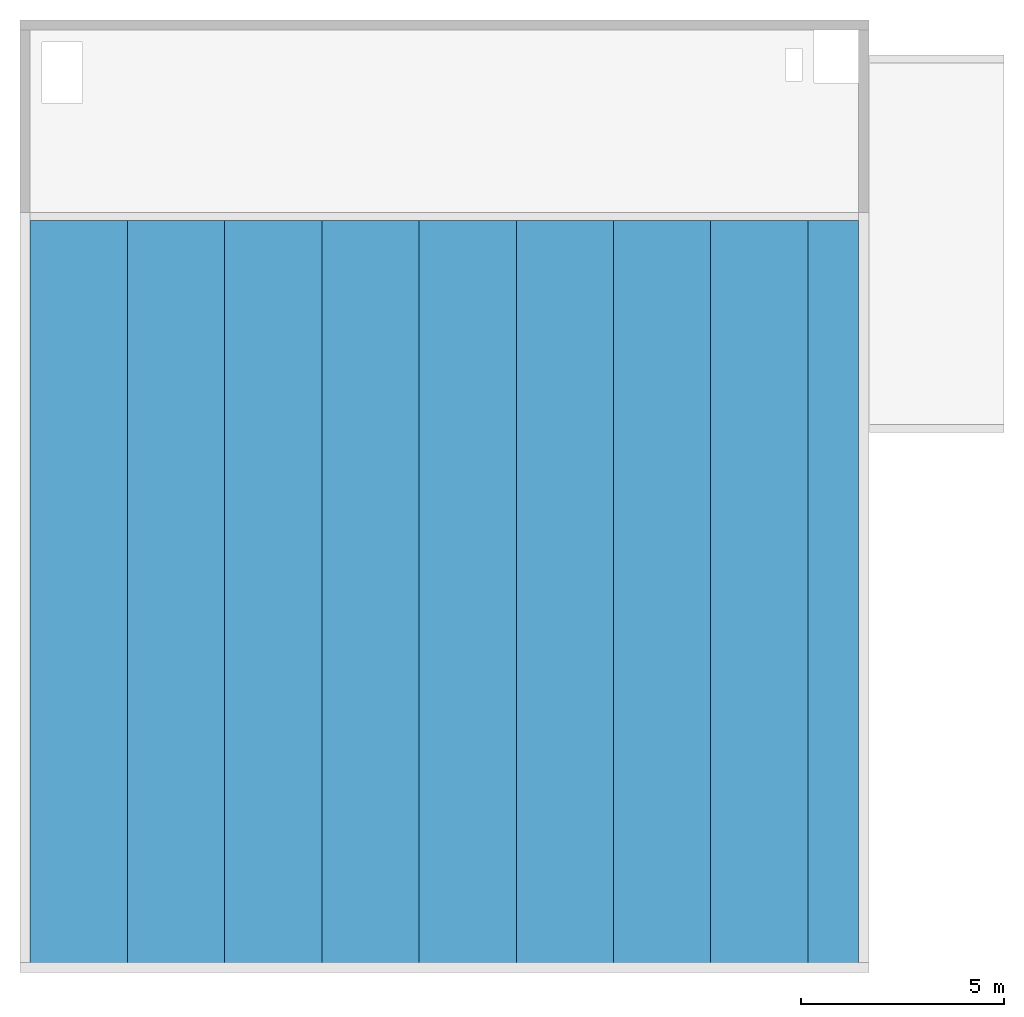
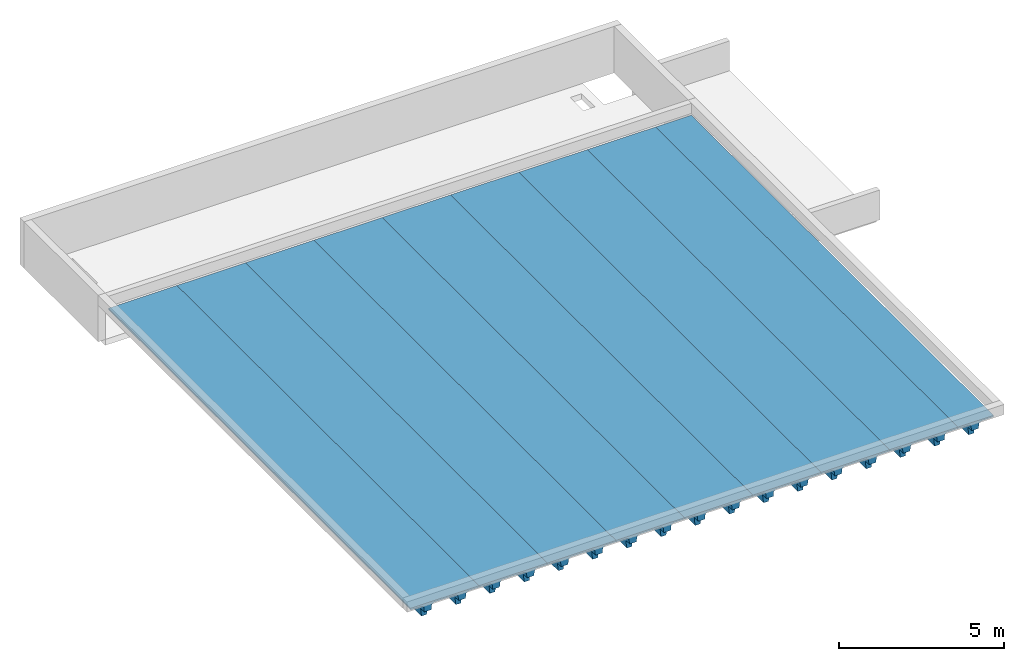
# One storey, part 2 of 2: 9 beams.
"""IFC4 building model written with IfcOpenShell, lengths in metres."""

from ifc_helpers import new_model, entity, si_unit, converted_unit, derived_unit, frame, origin, place, context, subcontext, project, spatial, faceted_brep, material, element, save


model = new_model("IFC4")

# Units and contexts
model_context = context("Model", 3, precision=1e-05, world=origin())
plan_context = context("Plan", 2, precision=1e-05, world=origin())
body_context = subcontext(model_context, "Body", "Model", "MODEL_VIEW")
ifc_project = project(units=[si_unit("LENGTHUNIT", "METRE"), si_unit("AREAUNIT", "SQUARE_METRE"), si_unit("VOLUMEUNIT", "CUBIC_METRE"), si_unit("MASSUNIT", "GRAM", prefix="KILO"), converted_unit("PLANEANGLEUNIT", "DEGREE", entity("IfcPlaneAngleMeasure", 0.0174532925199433), si_unit("PLANEANGLEUNIT", "RADIAN"), dimensions=[0, 0, 0, 0, 0, 0, 0]), derived_unit("THERMALTRANSMITTANCEUNIT", [(si_unit("POWERUNIT", "WATT"), 1), (si_unit("THERMODYNAMICTEMPERATUREUNIT", "KELVIN"), -1), (si_unit("LENGTHUNIT", "METRE"), -2)]), derived_unit("VOLUMETRICFLOWRATEUNIT", [(si_unit("LENGTHUNIT", "METRE"), 3), (converted_unit("TIMEUNIT", "hour", entity("IfcTimeMeasure", 3600.0), si_unit("TIMEUNIT", "SECOND"), dimensions=[0, 0, 1, 0, 0, 0, 0]), -1), (si_unit("LENGTHUNIT", "METRE"), -1)])], contexts=[model_context, plan_context])

# Site, building, storey
site_placement = place(None, origin())
site = spatial("IfcSite", under=ifc_project, at=site_placement, Name="Site", CompositionType="ELEMENT")
building_placement = place(site_placement, origin())
building = spatial("IfcBuilding", under=site, at=building_placement, Name="Auditorium", CompositionType="ELEMENT")
storey_placement = place(building_placement, frame((0.0, 0.0, 3.9)))
storey = spatial("IfcBuildingStorey", under=building, at=storey_placement, Name="01-Toiture", CompositionType="ELEMENT", Elevation=3.9)

# Beams
ifc_material_1 = material(Name="Béton préfabriqué")
beam_1_placement = place(storey_placement, frame((-0.000199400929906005, -0.0505506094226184, 0.36)))
element("IfcBeam", 1, at=beam_1_placement, inside=storey, material=ifc_material_1, Name="Dalles TT", PredefinedType="NOTDEFINED", context=body_context, shape_type="Brep", body=[
    faceted_brep([(0.687, 0.225, 0.0), (0.507, 0.225, 0.0), (0.4757531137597, 0.225, 0.3), (0.7182468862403, 0.225, 0.3), (0.4757531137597, 0.0, 0.3), (0.7182468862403, 0.0, 0.3), (0.0, 0.0, 0.6), (1.27220118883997e-10, 18.320101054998, 0.6), (2.39400000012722, 18.320101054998, 0.6), (2.394, 0.0, 0.6), (2.39400000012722, 18.320101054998, 0.54), (2.394, 0.0, 0.54), (2.00100000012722, 18.320101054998, 0.54), (2.001, 0.0, 0.54), (1.9370088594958, 18.320101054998, 0.480132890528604), (1.93700885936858, 0.0, 0.480132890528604), (1.91824688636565, 18.120101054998, 0.3), (1.88700000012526, 18.120101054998, 0.0), (1.887, 0.225, 0.0), (1.9182468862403, 0.225, 0.3), (1.9182468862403, 0.0, 0.3), (1.91824688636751, 18.320101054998, 0.299999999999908), (1.67575311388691, 18.320101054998, 0.300000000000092), (1.65699114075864, 18.320101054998, 0.480132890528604), (1.65699114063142, 0.0, 0.480132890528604), (1.6757531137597, 0.0, 0.3), (1.6757531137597, 0.225, 0.3), (1.707, 0.225, 0.0), (1.70700000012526, 18.120101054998, 0.0), (1.67575311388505, 18.120101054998, 0.3), (1.59300000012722, 18.320101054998, 0.54), (1.593, 0.0, 0.54), (0.80100000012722, 18.320101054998, 0.54), (0.801, 0.0, 0.54), (0.7370088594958, 18.320101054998, 0.480132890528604), (0.73700885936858, 0.0, 0.480132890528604), (0.718246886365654, 18.120101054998, 0.3), (0.687000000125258, 18.120101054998, 0.0), (0.718246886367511, 18.320101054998, 0.299999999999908), (0.475753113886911, 18.320101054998, 0.300000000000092), (0.456991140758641, 18.320101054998, 0.480132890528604), (0.45699114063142, 0.0, 0.480132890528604), (0.507000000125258, 18.120101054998, 0.0), (0.475753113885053, 18.120101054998, 0.3), (0.39300000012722, 18.320101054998, 0.54), (0.393, 0.0, 0.54), (1.27220118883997e-10, 18.320101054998, 0.54), (0.0, 0.0, 0.54)], [[[0, 1, 2, 3]], [[3, 2, 4, 5]], [[6, 7, 8, 9]], [[9, 8, 10, 11]], [[11, 10, 12, 13]], [[13, 12, 14, 15]], [[16, 17, 18, 19, 20, 15, 14, 21]], [[22, 23, 24, 25, 26, 27, 28, 29]], [[24, 23, 30, 31]], [[31, 30, 32, 33]], [[33, 32, 34, 35]], [[36, 37, 0, 3, 5, 35, 34, 38]], [[39, 40, 41, 4, 2, 1, 42, 43]], [[41, 40, 44, 45]], [[45, 44, 46, 47]], [[47, 46, 7, 6]], [[4, 41, 45, 47, 6, 9, 11, 13, 15, 20, 25, 24, 31, 33, 35, 5]], [[38, 34, 32, 30, 23, 22, 21, 14, 12, 10, 8, 7, 46, 44, 40, 39]], [[25, 20, 19, 26]], [[26, 19, 18, 27]], [[1, 0, 37, 42]], [[27, 18, 17, 28]], [[29, 16, 21, 22]], [[28, 17, 16, 29]], [[42, 37, 36, 43]], [[43, 36, 38, 39]]], orient=[[False], [False], [False], [False], [False], [False], [False], [False], [False], [False], [False], [False], [False], [False], [False], [False], [False], [False], [False], [False], [False], [False], [False], [False], [False], [False]]),
])
ifc_material_2 = material(Name="Béton préfabriqué")
beam_2_placement = place(storey_placement, frame((2.39380059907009, -0.0505506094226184, 0.36)))
element("IfcBeam", 2, at=beam_2_placement, inside=storey, material=ifc_material_2, Name="Dalles TT", PredefinedType="NOTDEFINED", context=body_context, shape_type="Brep", body=[
    faceted_brep([(0.687, 0.225, 0.0), (0.507, 0.225, 0.0), (0.4757531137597, 0.225, 0.3), (0.7182468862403, 0.225, 0.3), (0.4757531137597, 0.0, 0.3), (0.7182468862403, 0.0, 0.3), (0.0, 0.0, 0.6), (1.27220118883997e-10, 18.320101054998, 0.6), (2.39400000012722, 18.320101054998, 0.6), (2.394, 0.0, 0.6), (2.39400000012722, 18.320101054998, 0.54), (2.394, 0.0, 0.54), (2.00100000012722, 18.320101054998, 0.54), (2.001, 0.0, 0.54), (1.9370088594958, 18.320101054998, 0.480132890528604), (1.93700885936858, 0.0, 0.480132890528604), (1.91824688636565, 18.120101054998, 0.3), (1.88700000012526, 18.120101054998, 0.0), (1.887, 0.225, 0.0), (1.9182468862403, 0.225, 0.3), (1.9182468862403, 0.0, 0.3), (1.91824688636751, 18.320101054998, 0.299999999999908), (1.67575311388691, 18.320101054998, 0.300000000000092), (1.65699114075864, 18.320101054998, 0.480132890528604), (1.65699114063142, 0.0, 0.480132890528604), (1.6757531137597, 0.0, 0.3), (1.6757531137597, 0.225, 0.3), (1.707, 0.225, 0.0), (1.70700000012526, 18.120101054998, 0.0), (1.67575311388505, 18.120101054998, 0.3), (1.59300000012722, 18.320101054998, 0.54), (1.593, 0.0, 0.54), (0.80100000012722, 18.320101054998, 0.54), (0.801, 0.0, 0.54), (0.7370088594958, 18.320101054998, 0.480132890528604), (0.73700885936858, 0.0, 0.480132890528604), (0.718246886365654, 18.120101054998, 0.3), (0.687000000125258, 18.120101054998, 0.0), (0.718246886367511, 18.320101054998, 0.299999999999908), (0.475753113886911, 18.320101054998, 0.300000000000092), (0.456991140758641, 18.320101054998, 0.480132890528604), (0.45699114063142, 0.0, 0.480132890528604), (0.507000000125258, 18.120101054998, 0.0), (0.475753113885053, 18.120101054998, 0.3), (0.39300000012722, 18.320101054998, 0.54), (0.393, 0.0, 0.54), (1.27220118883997e-10, 18.320101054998, 0.54), (0.0, 0.0, 0.54)], [[[0, 1, 2, 3]], [[3, 2, 4, 5]], [[6, 7, 8, 9]], [[9, 8, 10, 11]], [[11, 10, 12, 13]], [[13, 12, 14, 15]], [[16, 17, 18, 19, 20, 15, 14, 21]], [[22, 23, 24, 25, 26, 27, 28, 29]], [[24, 23, 30, 31]], [[31, 30, 32, 33]], [[33, 32, 34, 35]], [[36, 37, 0, 3, 5, 35, 34, 38]], [[39, 40, 41, 4, 2, 1, 42, 43]], [[41, 40, 44, 45]], [[45, 44, 46, 47]], [[47, 46, 7, 6]], [[4, 41, 45, 47, 6, 9, 11, 13, 15, 20, 25, 24, 31, 33, 35, 5]], [[38, 34, 32, 30, 23, 22, 21, 14, 12, 10, 8, 7, 46, 44, 40, 39]], [[25, 20, 19, 26]], [[26, 19, 18, 27]], [[1, 0, 37, 42]], [[27, 18, 17, 28]], [[29, 16, 21, 22]], [[28, 17, 16, 29]], [[42, 37, 36, 43]], [[43, 36, 38, 39]]], orient=[[False], [False], [False], [False], [False], [False], [False], [False], [False], [False], [False], [False], [False], [False], [False], [False], [False], [False], [False], [False], [False], [False], [False], [False], [False], [False]]),
])
ifc_material_3 = material(Name="Béton préfabriqué")
beam_3_placement = place(storey_placement, frame((4.78780059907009, -0.0505506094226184, 0.36)))
element("IfcBeam", 3, at=beam_3_placement, inside=storey, material=ifc_material_3, Name="Dalles TT", PredefinedType="NOTDEFINED", context=body_context, shape_type="Brep", body=[
    faceted_brep([(0.687, 0.225, 0.0), (0.507, 0.225, 0.0), (0.4757531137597, 0.225, 0.3), (0.7182468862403, 0.225, 0.3), (0.4757531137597, 0.0, 0.3), (0.7182468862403, 0.0, 0.3), (0.0, 0.0, 0.6), (1.27220118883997e-10, 18.320101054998, 0.6), (2.39400000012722, 18.320101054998, 0.6), (2.394, 0.0, 0.6), (2.39400000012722, 18.320101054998, 0.54), (2.394, 0.0, 0.54), (2.00100000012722, 18.320101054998, 0.54), (2.001, 0.0, 0.54), (1.9370088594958, 18.320101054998, 0.480132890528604), (1.93700885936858, 0.0, 0.480132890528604), (1.91824688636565, 18.120101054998, 0.3), (1.88700000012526, 18.120101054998, 0.0), (1.887, 0.225, 0.0), (1.9182468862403, 0.225, 0.3), (1.9182468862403, 0.0, 0.3), (1.91824688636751, 18.320101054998, 0.299999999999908), (1.67575311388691, 18.320101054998, 0.300000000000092), (1.65699114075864, 18.320101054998, 0.480132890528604), (1.65699114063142, 0.0, 0.480132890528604), (1.6757531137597, 0.0, 0.3), (1.6757531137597, 0.225, 0.3), (1.707, 0.225, 0.0), (1.70700000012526, 18.120101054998, 0.0), (1.67575311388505, 18.120101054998, 0.3), (1.59300000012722, 18.320101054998, 0.54), (1.593, 0.0, 0.54), (0.80100000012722, 18.320101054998, 0.54), (0.801, 0.0, 0.54), (0.7370088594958, 18.320101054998, 0.480132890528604), (0.73700885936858, 0.0, 0.480132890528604), (0.718246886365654, 18.120101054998, 0.3), (0.687000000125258, 18.120101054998, 0.0), (0.718246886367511, 18.320101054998, 0.299999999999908), (0.475753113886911, 18.320101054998, 0.300000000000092), (0.456991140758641, 18.320101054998, 0.480132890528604), (0.45699114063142, 0.0, 0.480132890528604), (0.507000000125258, 18.120101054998, 0.0), (0.475753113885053, 18.120101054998, 0.3), (0.39300000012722, 18.320101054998, 0.54), (0.393, 0.0, 0.54), (1.27220118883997e-10, 18.320101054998, 0.54), (0.0, 0.0, 0.54)], [[[0, 1, 2, 3]], [[3, 2, 4, 5]], [[6, 7, 8, 9]], [[9, 8, 10, 11]], [[11, 10, 12, 13]], [[13, 12, 14, 15]], [[16, 17, 18, 19, 20, 15, 14, 21]], [[22, 23, 24, 25, 26, 27, 28, 29]], [[24, 23, 30, 31]], [[31, 30, 32, 33]], [[33, 32, 34, 35]], [[36, 37, 0, 3, 5, 35, 34, 38]], [[39, 40, 41, 4, 2, 1, 42, 43]], [[41, 40, 44, 45]], [[45, 44, 46, 47]], [[47, 46, 7, 6]], [[4, 41, 45, 47, 6, 9, 11, 13, 15, 20, 25, 24, 31, 33, 35, 5]], [[38, 34, 32, 30, 23, 22, 21, 14, 12, 10, 8, 7, 46, 44, 40, 39]], [[25, 20, 19, 26]], [[26, 19, 18, 27]], [[1, 0, 37, 42]], [[27, 18, 17, 28]], [[29, 16, 21, 22]], [[28, 17, 16, 29]], [[42, 37, 36, 43]], [[43, 36, 38, 39]]], orient=[[False], [False], [False], [False], [False], [False], [False], [False], [False], [False], [False], [False], [False], [False], [False], [False], [False], [False], [False], [False], [False], [False], [False], [False], [False], [False]]),
])
ifc_material_4 = material(Name="Béton préfabriqué")
beam_4_placement = place(storey_placement, frame((11.9698005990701, -0.0505506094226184, 0.36)))
element("IfcBeam", 4, at=beam_4_placement, inside=storey, material=ifc_material_4, Name="Dalles TT", PredefinedType="NOTDEFINED", context=body_context, shape_type="Brep", body=[
    faceted_brep([(0.687, 0.225, 0.0), (0.507, 0.225, 0.0), (0.4757531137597, 0.225, 0.3), (0.7182468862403, 0.225, 0.3), (0.4757531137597, 0.0, 0.3), (0.7182468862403, 0.0, 0.3), (0.0, 0.0, 0.6), (1.27220118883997e-10, 18.320101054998, 0.6), (2.39400000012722, 18.320101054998, 0.6), (2.394, 0.0, 0.6), (2.39400000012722, 18.320101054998, 0.54), (2.394, 0.0, 0.54), (2.00100000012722, 18.320101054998, 0.54), (2.001, 0.0, 0.54), (1.9370088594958, 18.320101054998, 0.480132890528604), (1.93700885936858, 0.0, 0.480132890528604), (1.91824688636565, 18.120101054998, 0.3), (1.88700000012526, 18.120101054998, 0.0), (1.887, 0.225, 0.0), (1.9182468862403, 0.225, 0.3), (1.9182468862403, 0.0, 0.3), (1.91824688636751, 18.320101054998, 0.299999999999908), (1.67575311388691, 18.320101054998, 0.300000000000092), (1.65699114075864, 18.320101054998, 0.480132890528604), (1.65699114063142, 0.0, 0.480132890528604), (1.6757531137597, 0.0, 0.3), (1.6757531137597, 0.225, 0.3), (1.707, 0.225, 0.0), (1.70700000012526, 18.120101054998, 0.0), (1.67575311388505, 18.120101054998, 0.3), (1.59300000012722, 18.320101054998, 0.54), (1.593, 0.0, 0.54), (0.80100000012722, 18.320101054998, 0.54), (0.801, 0.0, 0.54), (0.7370088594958, 18.320101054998, 0.480132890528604), (0.73700885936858, 0.0, 0.480132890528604), (0.718246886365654, 18.120101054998, 0.3), (0.687000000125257, 18.120101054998, 0.0), (0.718246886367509, 18.320101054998, 0.299999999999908), (0.475753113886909, 18.320101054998, 0.300000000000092), (0.456991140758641, 18.320101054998, 0.480132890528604), (0.45699114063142, 0.0, 0.480132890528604), (0.507000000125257, 18.120101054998, 0.0), (0.475753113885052, 18.120101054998, 0.3), (0.39300000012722, 18.320101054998, 0.54), (0.393, 0.0, 0.54), (1.27220118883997e-10, 18.320101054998, 0.54), (0.0, 0.0, 0.54)], [[[0, 1, 2, 3]], [[3, 2, 4, 5]], [[6, 7, 8, 9]], [[9, 8, 10, 11]], [[11, 10, 12, 13]], [[13, 12, 14, 15]], [[16, 17, 18, 19, 20, 15, 14, 21]], [[22, 23, 24, 25, 26, 27, 28, 29]], [[24, 23, 30, 31]], [[31, 30, 32, 33]], [[33, 32, 34, 35]], [[36, 37, 0, 3, 5, 35, 34, 38]], [[39, 40, 41, 4, 2, 1, 42, 43]], [[41, 40, 44, 45]], [[45, 44, 46, 47]], [[47, 46, 7, 6]], [[4, 41, 45, 47, 6, 9, 11, 13, 15, 20, 25, 24, 31, 33, 35, 5]], [[38, 34, 32, 30, 23, 22, 21, 14, 12, 10, 8, 7, 46, 44, 40, 39]], [[25, 20, 19, 26]], [[26, 19, 18, 27]], [[1, 0, 37, 42]], [[27, 18, 17, 28]], [[29, 16, 21, 22]], [[28, 17, 16, 29]], [[42, 37, 36, 43]], [[43, 36, 38, 39]]], orient=[[False], [False], [False], [False], [False], [False], [False], [False], [False], [False], [False], [False], [False], [False], [False], [False], [False], [False], [False], [False], [False], [False], [False], [False], [False], [False]]),
])
ifc_material_5 = material(Name="Béton préfabriqué")
beam_5_placement = place(storey_placement, frame((14.3638005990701, -0.0505506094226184, 0.36)))
element("IfcBeam", 5, at=beam_5_placement, inside=storey, material=ifc_material_5, Name="Dalles TT", PredefinedType="NOTDEFINED", context=body_context, shape_type="Brep", body=[
    faceted_brep([(0.687, 0.225, 0.0), (0.507, 0.225, 0.0), (0.4757531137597, 0.225, 0.3), (0.7182468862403, 0.225, 0.3), (0.4757531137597, 0.0, 0.3), (0.7182468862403, 0.0, 0.3), (0.0, 0.0, 0.6), (1.27220118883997e-10, 18.320101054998, 0.6), (2.39400000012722, 18.320101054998, 0.6), (2.394, 0.0, 0.6), (2.39400000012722, 18.320101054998, 0.54), (2.394, 0.0, 0.54), (2.00100000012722, 18.320101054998, 0.54), (2.001, 0.0, 0.54), (1.9370088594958, 18.320101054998, 0.480132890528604), (1.93700885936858, 0.0, 0.480132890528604), (1.91824688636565, 18.120101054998, 0.3), (1.88700000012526, 18.120101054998, 0.0), (1.887, 0.225, 0.0), (1.9182468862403, 0.225, 0.3), (1.9182468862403, 0.0, 0.3), (1.91824688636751, 18.320101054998, 0.299999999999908), (1.67575311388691, 18.320101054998, 0.300000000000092), (1.65699114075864, 18.320101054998, 0.480132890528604), (1.65699114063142, 0.0, 0.480132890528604), (1.6757531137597, 0.0, 0.3), (1.6757531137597, 0.225, 0.3), (1.707, 0.225, 0.0), (1.70700000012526, 18.120101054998, 0.0), (1.67575311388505, 18.120101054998, 0.3), (1.59300000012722, 18.320101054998, 0.54), (1.593, 0.0, 0.54), (0.80100000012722, 18.320101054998, 0.54), (0.801, 0.0, 0.54), (0.7370088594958, 18.320101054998, 0.480132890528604), (0.73700885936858, 0.0, 0.480132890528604), (0.718246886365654, 18.120101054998, 0.3), (0.687000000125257, 18.120101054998, 0.0), (0.718246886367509, 18.320101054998, 0.299999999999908), (0.475753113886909, 18.320101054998, 0.300000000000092), (0.456991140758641, 18.320101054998, 0.480132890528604), (0.45699114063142, 0.0, 0.480132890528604), (0.507000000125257, 18.120101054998, 0.0), (0.475753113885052, 18.120101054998, 0.3), (0.39300000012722, 18.320101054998, 0.54), (0.393, 0.0, 0.54), (1.27220118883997e-10, 18.320101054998, 0.54), (0.0, 0.0, 0.54)], [[[0, 1, 2, 3]], [[3, 2, 4, 5]], [[6, 7, 8, 9]], [[9, 8, 10, 11]], [[11, 10, 12, 13]], [[13, 12, 14, 15]], [[16, 17, 18, 19, 20, 15, 14, 21]], [[22, 23, 24, 25, 26, 27, 28, 29]], [[24, 23, 30, 31]], [[31, 30, 32, 33]], [[33, 32, 34, 35]], [[36, 37, 0, 3, 5, 35, 34, 38]], [[39, 40, 41, 4, 2, 1, 42, 43]], [[41, 40, 44, 45]], [[45, 44, 46, 47]], [[47, 46, 7, 6]], [[4, 41, 45, 47, 6, 9, 11, 13, 15, 20, 25, 24, 31, 33, 35, 5]], [[38, 34, 32, 30, 23, 22, 21, 14, 12, 10, 8, 7, 46, 44, 40, 39]], [[25, 20, 19, 26]], [[26, 19, 18, 27]], [[1, 0, 37, 42]], [[27, 18, 17, 28]], [[29, 16, 21, 22]], [[28, 17, 16, 29]], [[42, 37, 36, 43]], [[43, 36, 38, 39]]], orient=[[False], [False], [False], [False], [False], [False], [False], [False], [False], [False], [False], [False], [False], [False], [False], [False], [False], [False], [False], [False], [False], [False], [False], [False], [False], [False]]),
])
ifc_material_6 = material(Name="Béton préfabriqué")
beam_6_placement = place(storey_placement, frame((16.7578005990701, -0.0505506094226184, 0.36)))
element("IfcBeam", 6, at=beam_6_placement, inside=storey, material=ifc_material_6, Name="Dalles TT", PredefinedType="NOTDEFINED", context=body_context, shape_type="Brep", body=[
    faceted_brep([(0.687, 0.225, 0.0), (0.507, 0.225, 0.0), (0.4757531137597, 0.225, 0.3), (0.7182468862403, 0.225, 0.3), (0.4757531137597, 0.0, 0.3), (0.7182468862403, 0.0, 0.3), (0.0, 0.0, 0.6), (1.27220118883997e-10, 18.320101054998, 0.6), (2.39400000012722, 18.320101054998, 0.6), (2.394, 0.0, 0.6), (2.39400000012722, 18.320101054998, 0.54), (2.394, 0.0, 0.54), (2.00100000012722, 18.320101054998, 0.54), (2.001, 0.0, 0.54), (1.9370088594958, 18.320101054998, 0.480132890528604), (1.93700885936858, 0.0, 0.480132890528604), (1.91824688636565, 18.120101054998, 0.3), (1.88700000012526, 18.120101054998, 0.0), (1.887, 0.225, 0.0), (1.9182468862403, 0.225, 0.3), (1.9182468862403, 0.0, 0.3), (1.91824688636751, 18.320101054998, 0.299999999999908), (1.67575311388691, 18.320101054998, 0.300000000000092), (1.65699114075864, 18.320101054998, 0.480132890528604), (1.65699114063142, 0.0, 0.480132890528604), (1.6757531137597, 0.0, 0.3), (1.6757531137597, 0.225, 0.3), (1.707, 0.225, 0.0), (1.70700000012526, 18.120101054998, 0.0), (1.67575311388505, 18.120101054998, 0.3), (1.59300000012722, 18.320101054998, 0.54), (1.593, 0.0, 0.54), (0.80100000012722, 18.320101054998, 0.54), (0.801, 0.0, 0.54), (0.7370088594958, 18.320101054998, 0.480132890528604), (0.73700885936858, 0.0, 0.480132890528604), (0.718246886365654, 18.120101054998, 0.3), (0.687000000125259, 18.120101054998, 0.0), (0.718246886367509, 18.320101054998, 0.299999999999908), (0.475753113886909, 18.320101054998, 0.300000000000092), (0.456991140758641, 18.320101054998, 0.480132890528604), (0.45699114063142, 0.0, 0.480132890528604), (0.507000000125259, 18.120101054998, 0.0), (0.47575311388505, 18.120101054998, 0.3), (0.39300000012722, 18.320101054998, 0.54), (0.393, 0.0, 0.54), (1.27220118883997e-10, 18.320101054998, 0.54), (0.0, 0.0, 0.54)], [[[0, 1, 2, 3]], [[3, 2, 4, 5]], [[6, 7, 8, 9]], [[9, 8, 10, 11]], [[11, 10, 12, 13]], [[13, 12, 14, 15]], [[16, 17, 18, 19, 20, 15, 14, 21]], [[22, 23, 24, 25, 26, 27, 28, 29]], [[24, 23, 30, 31]], [[31, 30, 32, 33]], [[33, 32, 34, 35]], [[36, 37, 0, 3, 5, 35, 34, 38]], [[39, 40, 41, 4, 2, 1, 42, 43]], [[41, 40, 44, 45]], [[45, 44, 46, 47]], [[47, 46, 7, 6]], [[4, 41, 45, 47, 6, 9, 11, 13, 15, 20, 25, 24, 31, 33, 35, 5]], [[38, 34, 32, 30, 23, 22, 21, 14, 12, 10, 8, 7, 46, 44, 40, 39]], [[25, 20, 19, 26]], [[26, 19, 18, 27]], [[1, 0, 37, 42]], [[27, 18, 17, 28]], [[29, 16, 21, 22]], [[28, 17, 16, 29]], [[42, 37, 36, 43]], [[43, 36, 38, 39]]], orient=[[False], [False], [False], [False], [False], [False], [False], [False], [False], [False], [False], [False], [False], [False], [False], [False], [False], [False], [False], [False], [False], [False], [False], [False], [False], [False]]),
])
ifc_material_7 = material(Name="Béton préfabriqué")
beam_7_placement = place(storey_placement, frame((19.1518005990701, -0.0505506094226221, 0.36)))
element("IfcBeam", 7, at=beam_7_placement, inside=storey, material=ifc_material_7, Name="Dalles TT", PredefinedType="NOTDEFINED", context=body_context, shape_type="Brep", body=[
    faceted_brep([(0.510000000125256, 18.120101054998, 0.0), (0.690000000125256, 18.120101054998, 0.0), (0.72124688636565, 18.120101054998, 0.3), (0.478753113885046, 18.120101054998, 0.3), (0.721246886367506, 18.320101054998, 0.299999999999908), (0.478753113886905, 18.320101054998, 0.300000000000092), (0.509999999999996, 0.225000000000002, 0.0), (0.689999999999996, 0.225000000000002, 0.0), (0.478753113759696, 0.225000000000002, 0.3), (0.721246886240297, 0.225000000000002, 0.3), (0.478753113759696, 0.0, 0.3), (0.721246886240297, 0.0, 0.3), (7.27595761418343e-15, 18.320101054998, 0.54), (0.396000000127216, 18.320101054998, 0.54), (0.459991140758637, 18.320101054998, 0.480132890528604), (0.740008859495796, 18.320101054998, 0.480132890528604), (0.804000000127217, 18.320101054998, 0.54), (1.24800000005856, 18.320101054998, 0.54), (1.24800000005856, 18.320101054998, 0.6), (7.27595761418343e-15, 18.320101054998, 0.6), (0.0, 0.0, 0.6), (1.24799999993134, 0.0, 0.6), (1.24799999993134, 0.0, 0.54), (0.803999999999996, 0.0, 0.54), (0.740008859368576, 0.0, 0.480132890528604), (0.459991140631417, 0.0, 0.480132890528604), (0.395999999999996, 0.0, 0.54), (0.0, 0.0, 0.54)], [[[0, 1, 2, 3]], [[3, 2, 4, 5]], [[6, 7, 1, 0]], [[8, 9, 7, 6]], [[10, 11, 9, 8]], [[12, 13, 14, 5, 4, 15, 16, 17, 18, 19]], [[20, 21, 22, 23, 24, 11, 10, 25, 26, 27]], [[27, 26, 13, 12]], [[25, 14, 13, 26]], [[5, 14, 25, 10, 8, 6, 0, 3]], [[2, 1, 7, 9, 11, 24, 15, 4]], [[23, 16, 15, 24]], [[22, 17, 16, 23]], [[21, 18, 17, 22]], [[18, 21, 20, 19]], [[27, 12, 19, 20]]], orient=[[False], [False], [False], [False], [False], [False], [False], [False], [False], [False], [False], [False], [False], [False], [False], [False]]),
])
ifc_material_8 = material(Name="Béton préfabriqué")
beam_8_placement = place(storey_placement, frame((9.5758005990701, -0.0505506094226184, 0.36)))
element("IfcBeam", 8, at=beam_8_placement, inside=storey, material=ifc_material_8, Name="Dalles TT", PredefinedType="NOTDEFINED", context=body_context, shape_type="Brep", body=[
    faceted_brep([(0.687, 0.225, 0.0), (0.507, 0.225, 0.0), (0.4757531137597, 0.225, 0.3), (0.7182468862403, 0.225, 0.3), (0.4757531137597, 0.0, 0.3), (0.7182468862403, 0.0, 0.3), (0.0, 0.0, 0.6), (1.27220118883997e-10, 18.320101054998, 0.6), (2.39400000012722, 18.320101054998, 0.6), (2.394, 0.0, 0.6), (2.39400000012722, 18.320101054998, 0.54), (2.394, 0.0, 0.54), (2.00100000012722, 18.320101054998, 0.54), (2.001, 0.0, 0.54), (1.9370088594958, 18.320101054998, 0.480132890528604), (1.93700885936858, 0.0, 0.480132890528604), (1.91824688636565, 18.120101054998, 0.3), (1.88700000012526, 18.120101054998, 0.0), (1.887, 0.225, 0.0), (1.9182468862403, 0.225, 0.3), (1.9182468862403, 0.0, 0.3), (1.91824688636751, 18.320101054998, 0.299999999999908), (1.67575311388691, 18.320101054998, 0.300000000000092), (1.65699114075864, 18.320101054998, 0.480132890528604), (1.65699114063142, 0.0, 0.480132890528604), (1.6757531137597, 0.0, 0.3), (1.6757531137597, 0.225, 0.3), (1.707, 0.225, 0.0), (1.70700000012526, 18.120101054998, 0.0), (1.67575311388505, 18.120101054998, 0.3), (1.59300000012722, 18.320101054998, 0.54), (1.593, 0.0, 0.54), (0.80100000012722, 18.320101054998, 0.54), (0.801, 0.0, 0.54), (0.7370088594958, 18.320101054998, 0.480132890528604), (0.73700885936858, 0.0, 0.480132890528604), (0.718246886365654, 18.120101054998, 0.3), (0.687000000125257, 18.120101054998, 0.0), (0.718246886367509, 18.320101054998, 0.299999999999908), (0.475753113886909, 18.320101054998, 0.300000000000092), (0.456991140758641, 18.320101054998, 0.480132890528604), (0.45699114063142, 0.0, 0.480132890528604), (0.507000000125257, 18.120101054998, 0.0), (0.475753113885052, 18.120101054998, 0.3), (0.39300000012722, 18.320101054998, 0.54), (0.393, 0.0, 0.54), (1.27220118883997e-10, 18.320101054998, 0.54), (0.0, 0.0, 0.54)], [[[0, 1, 2, 3]], [[3, 2, 4, 5]], [[6, 7, 8, 9]], [[9, 8, 10, 11]], [[11, 10, 12, 13]], [[13, 12, 14, 15]], [[16, 17, 18, 19, 20, 15, 14, 21]], [[22, 23, 24, 25, 26, 27, 28, 29]], [[24, 23, 30, 31]], [[31, 30, 32, 33]], [[33, 32, 34, 35]], [[36, 37, 0, 3, 5, 35, 34, 38]], [[39, 40, 41, 4, 2, 1, 42, 43]], [[41, 40, 44, 45]], [[45, 44, 46, 47]], [[47, 46, 7, 6]], [[4, 41, 45, 47, 6, 9, 11, 13, 15, 20, 25, 24, 31, 33, 35, 5]], [[38, 34, 32, 30, 23, 22, 21, 14, 12, 10, 8, 7, 46, 44, 40, 39]], [[25, 20, 19, 26]], [[26, 19, 18, 27]], [[1, 0, 37, 42]], [[27, 18, 17, 28]], [[29, 16, 21, 22]], [[28, 17, 16, 29]], [[42, 37, 36, 43]], [[43, 36, 38, 39]]], orient=[[False], [False], [False], [False], [False], [False], [False], [False], [False], [False], [False], [False], [False], [False], [False], [False], [False], [False], [False], [False], [False], [False], [False], [False], [False], [False]]),
])
ifc_material_9 = material(Name="Béton préfabriqué")
beam_9_placement = place(storey_placement, frame((7.18180059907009, -0.0505506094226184, 0.36)))
element("IfcBeam", 9, at=beam_9_placement, inside=storey, material=ifc_material_9, Name="Dalles TT", PredefinedType="NOTDEFINED", context=body_context, shape_type="Brep", body=[
    faceted_brep([(0.686999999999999, 0.225, 0.0), (0.506999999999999, 0.225, 0.0), (0.475753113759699, 0.225, 0.3), (0.718246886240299, 0.225, 0.3), (0.475753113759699, 0.0, 0.3), (0.718246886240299, 0.0, 0.3), (-9.09494701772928e-16, 0.0, 0.6), (1.27219209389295e-10, 18.320101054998, 0.6), (2.39400000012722, 18.320101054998, 0.6), (2.394, 0.0, 0.6), (2.39400000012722, 18.320101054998, 0.54), (2.394, 0.0, 0.54), (2.00100000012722, 18.320101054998, 0.54), (2.001, 0.0, 0.54), (1.9370088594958, 18.320101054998, 0.480132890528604), (1.93700885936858, 0.0, 0.480132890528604), (1.91824688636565, 18.120101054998, 0.3), (1.88700000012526, 18.120101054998, 0.0), (1.887, 0.225, 0.0), (1.9182468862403, 0.225, 0.3), (1.9182468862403, 0.0, 0.3), (1.91824688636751, 18.320101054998, 0.299999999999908), (1.67575311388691, 18.320101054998, 0.300000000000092), (1.65699114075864, 18.320101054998, 0.480132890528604), (1.65699114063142, 0.0, 0.480132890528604), (1.6757531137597, 0.0, 0.3), (1.6757531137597, 0.225, 0.3), (1.707, 0.225, 0.0), (1.70700000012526, 18.120101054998, 0.0), (1.67575311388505, 18.120101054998, 0.3), (1.59300000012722, 18.320101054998, 0.54), (1.593, 0.0, 0.54), (0.801000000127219, 18.320101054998, 0.54), (0.800999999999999, 0.0, 0.54), (0.737008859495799, 18.320101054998, 0.480132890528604), (0.737008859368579, 0.0, 0.480132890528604), (0.718246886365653, 18.120101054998, 0.3), (0.687000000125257, 18.120101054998, 0.0), (0.71824688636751, 18.320101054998, 0.299999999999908), (0.47575311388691, 18.320101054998, 0.300000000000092), (0.45699114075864, 18.320101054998, 0.480132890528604), (0.45699114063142, 0.0, 0.480132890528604), (0.507000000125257, 18.120101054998, 0.0), (0.475753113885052, 18.120101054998, 0.3), (0.393000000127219, 18.320101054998, 0.54), (0.392999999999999, 0.0, 0.54), (1.27219209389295e-10, 18.320101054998, 0.54), (-9.09494701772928e-16, 0.0, 0.54)], [[[0, 1, 2, 3]], [[3, 2, 4, 5]], [[6, 7, 8, 9]], [[9, 8, 10, 11]], [[11, 10, 12, 13]], [[13, 12, 14, 15]], [[16, 17, 18, 19, 20, 15, 14, 21]], [[22, 23, 24, 25, 26, 27, 28, 29]], [[24, 23, 30, 31]], [[31, 30, 32, 33]], [[33, 32, 34, 35]], [[36, 37, 0, 3, 5, 35, 34, 38]], [[39, 40, 41, 4, 2, 1, 42, 43]], [[41, 40, 44, 45]], [[45, 44, 46, 47]], [[47, 46, 7, 6]], [[4, 41, 45, 47, 6, 9, 11, 13, 15, 20, 25, 24, 31, 33, 35, 5]], [[38, 34, 32, 30, 23, 22, 21, 14, 12, 10, 8, 7, 46, 44, 40, 39]], [[25, 20, 19, 26]], [[26, 19, 18, 27]], [[1, 0, 37, 42]], [[27, 18, 17, 28]], [[29, 16, 21, 22]], [[28, 17, 16, 29]], [[42, 37, 36, 43]], [[43, 36, 38, 39]]], orient=[[False], [False], [False], [False], [False], [False], [False], [False], [False], [False], [False], [False], [False], [False], [False], [False], [False], [False], [False], [False], [False], [False], [False], [False], [False], [False]]),
])

save(model, "model.ifc")
